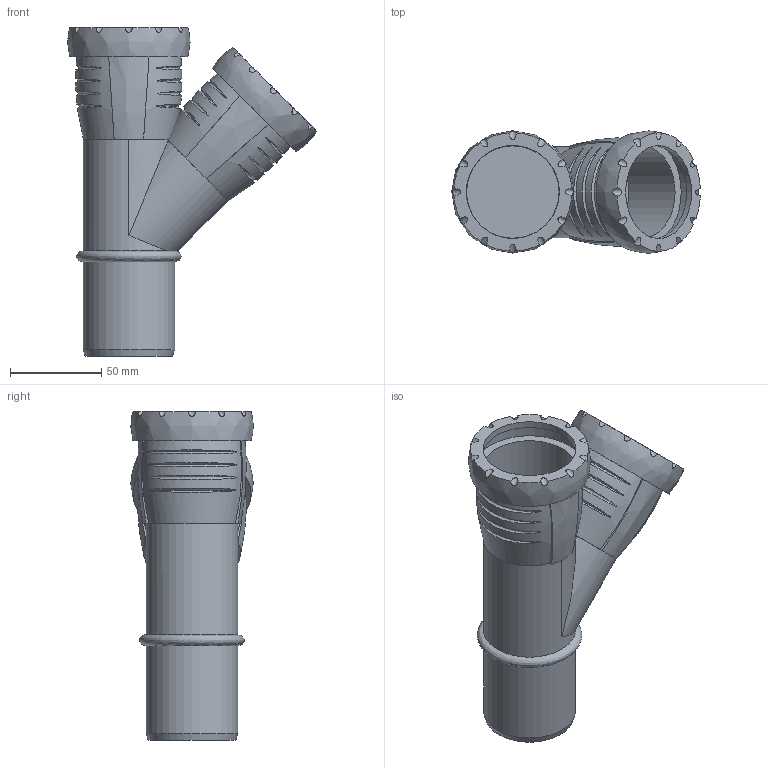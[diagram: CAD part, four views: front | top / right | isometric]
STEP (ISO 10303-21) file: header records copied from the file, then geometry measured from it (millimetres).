
FILE_DESCRIPTION(/* description */ (''),/* implementation_level */ '2;1');
FILE_NAME(/* name */ 'H:\Geberit-Teile\Export\Abzweig PP\stp\393232.stp',/* time_stamp */ '2017-02-13T13:15:39+01:00',/* author */ ('seihe2'),/* organization */ (''),/* preprocessor_version */ 'ST-DEVELOPER v15.2',/* originating_system */ 'Autodesk Inventor 2014',/* authorisation */ '');
FILE_SCHEMA (('AUTOMOTIVE_DESIGN { 1 0 10303 214 3 1 1 }'));
Length unit declared in the file: millimetre
Products named in the file (1): 393232
Bounding box: 136.32 x 67.08 x 180 mm (x, y, z)
Volume: 361309.7 mm3; surface area: 94966 mm2
Topology: 5 solids, 5 shells, 107 faces, 249 edges, 176 vertices
Faces by surface type: bspline 47, cylinder 40, plane 19, cone 1
Full cylindrical faces by diameter (mm): 36.243 x1, 42.65 x1, 44.15 x1, 50.15 x3, 50.7 x2, 51 x2, 60.1 x2
Entity records: 7640 total; most frequent: CARTESIAN_POINT 5422, ORIENTED_EDGE 466, DIRECTION 335, EDGE_CURVE 232, VERTEX_POINT 173, AXIS2_PLACEMENT_3D 167, EDGE_LOOP 147, B_SPLINE_CURVE_WITH_KNOTS 122
